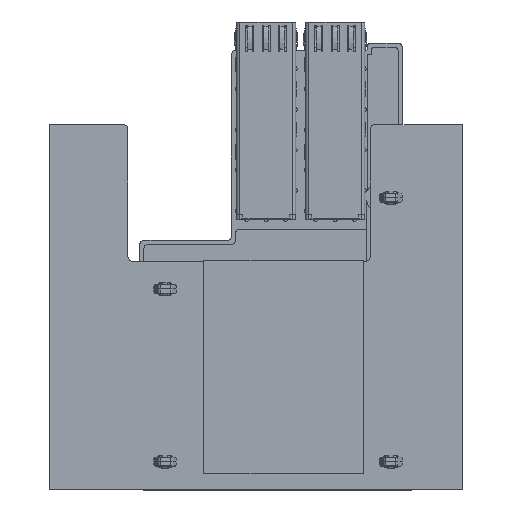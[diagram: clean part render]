
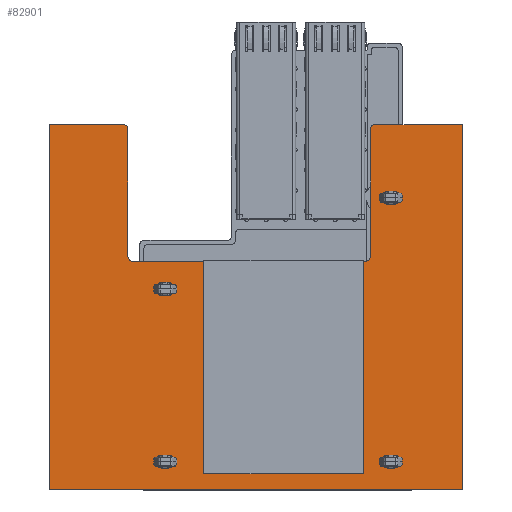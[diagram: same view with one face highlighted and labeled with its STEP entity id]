
A CAD part, front view. The second image highlights one B-rep face of the part: STEP entity #82901.
In plain terms, the highlighted planar face has unit normal (0, -1, 0).
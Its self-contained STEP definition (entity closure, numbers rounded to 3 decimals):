
#82106=DIRECTION('',(-1.,0.,0.));
#82107=VECTOR('',#82106,1.6);
#82108=CARTESIAN_POINT('',(100.2,-2.16,-465.9));
#82109=LINE('',#82108,#82107);
#82113=CARTESIAN_POINT('',(98.6,-2.16,-467.5));
#82114=DIRECTION('',(0.,-1.,0.));
#82115=DIRECTION('',(0.,0.,1.));
#82116=AXIS2_PLACEMENT_3D('',#82113,#82114,#82115);
#82121=DIRECTION('',(1.,0.,0.));
#82122=VECTOR('',#82121,1.6);
#82123=CARTESIAN_POINT('',(98.6,-2.16,-469.1));
#82124=LINE('',#82123,#82122);
#82128=CARTESIAN_POINT('',(100.2,-2.16,-467.5));
#82129=DIRECTION('',(0.,-1.,0.));
#82130=DIRECTION('',(0.,0.,-1.));
#82131=AXIS2_PLACEMENT_3D('',#82128,#82129,#82130);
#82136=DIRECTION('',(1.,0.,0.));
#82137=VECTOR('',#82136,1.6);
#82138=CARTESIAN_POINT('',(98.6,-2.16,-423.4));
#82139=LINE('',#82138,#82137);
#82143=CARTESIAN_POINT('',(98.6,-2.16,-425.));
#82144=DIRECTION('',(0.,1.,0.));
#82145=DIRECTION('',(0.,0.,-1.));
#82146=AXIS2_PLACEMENT_3D('',#82143,#82144,#82145);
#82151=DIRECTION('',(-1.,0.,0.));
#82152=VECTOR('',#82151,1.6);
#82153=CARTESIAN_POINT('',(100.2,-2.16,-426.6));
#82154=LINE('',#82153,#82152);
#82158=CARTESIAN_POINT('',(100.2,-2.16,-425.));
#82159=DIRECTION('',(0.,1.,0.));
#82160=DIRECTION('',(0.,0.,1.));
#82161=AXIS2_PLACEMENT_3D('',#82158,#82159,#82160);
#82166=CARTESIAN_POINT('',(44.6,-2.16,-425.));
#82167=DIRECTION('',(0.,1.,0.));
#82168=DIRECTION('',(0.,0.,1.));
#82169=AXIS2_PLACEMENT_3D('',#82166,#82167,#82168);
#82174=DIRECTION('',(1.,0.,0.));
#82175=VECTOR('',#82174,1.6);
#82176=CARTESIAN_POINT('',(43.,-2.16,-423.4));
#82177=LINE('',#82176,#82175);
#82181=CARTESIAN_POINT('',(43.,-2.16,-425.));
#82182=DIRECTION('',(0.,1.,0.));
#82183=DIRECTION('',(0.,0.,-1.));
#82184=AXIS2_PLACEMENT_3D('',#82181,#82182,#82183);
#82189=DIRECTION('',(-1.,0.,0.));
#82190=VECTOR('',#82189,1.6);
#82191=CARTESIAN_POINT('',(44.6,-2.16,-426.6));
#82192=LINE('',#82191,#82190);
#82196=CARTESIAN_POINT('',(44.6,-2.16,-490.));
#82197=DIRECTION('',(0.,1.,0.));
#82198=DIRECTION('',(0.,0.,1.));
#82199=AXIS2_PLACEMENT_3D('',#82196,#82197,#82198);
#82204=DIRECTION('',(1.,0.,0.));
#82205=VECTOR('',#82204,1.6);
#82206=CARTESIAN_POINT('',(43.,-2.16,-488.4));
#82207=LINE('',#82206,#82205);
#82211=CARTESIAN_POINT('',(43.,-2.16,-490.));
#82212=DIRECTION('',(0.,1.,0.));
#82213=DIRECTION('',(0.,0.,-1.));
#82214=AXIS2_PLACEMENT_3D('',#82211,#82212,#82213);
#82219=DIRECTION('',(-1.,0.,0.));
#82220=VECTOR('',#82219,1.6);
#82221=CARTESIAN_POINT('',(44.6,-2.16,-491.6));
#82222=LINE('',#82221,#82220);
#82226=CARTESIAN_POINT('',(47.77,-2.16,-507.));
#82227=DIRECTION('',(0.,-1.,0.));
#82228=DIRECTION('',(0.,0.,-1.));
#82229=AXIS2_PLACEMENT_3D('',#82226,#82227,#82228);
#82234=DIRECTION('',(1.,0.,0.));
#82235=VECTOR('',#82234,18.25);
#82236=CARTESIAN_POINT('',(109.62,-2.16,-508.));
#82237=LINE('',#82236,#82235);
#82241=CARTESIAN_POINT('',(109.62,-2.16,-507.));
#82242=DIRECTION('',(0.,-1.,0.));
#82243=DIRECTION('',(-1.,0.,0.));
#82244=AXIS2_PLACEMENT_3D('',#82241,#82242,#82243);
#82249=DIRECTION('',(0.,0.,1.));
#82250=VECTOR('',#82249,31.27);
#82251=CARTESIAN_POINT('',(108.62,-2.16,-507.));
#82252=LINE('',#82251,#82250);
#82532=DIRECTION('',(0.,0.,1.));
#82533=VECTOR('',#82532,31.27);
#82534=CARTESIAN_POINT('',(48.77,-2.16,-507.));
#82535=LINE('',#82534,#82533);
#82539=CARTESIAN_POINT('',(50.27,-2.16,-475.73));
#82540=DIRECTION('',(0.,1.,0.));
#82541=DIRECTION('',(-1.,0.,0.));
#82542=AXIS2_PLACEMENT_3D('',#82539,#82540,#82541);
#82576=DIRECTION('',(1.,0.,0.));
#82577=VECTOR('',#82576,56.85);
#82578=CARTESIAN_POINT('',(50.27,-2.16,-474.23));
#82579=LINE('',#82578,#82577);
#82583=CARTESIAN_POINT('',(107.12,-2.16,-475.73));
#82584=DIRECTION('',(0.,1.,0.));
#82585=DIRECTION('',(0.,0.,1.));
#82586=AXIS2_PLACEMENT_3D('',#82583,#82584,#82585);
#82648=DIRECTION('',(0.,0.,-1.));
#82649=VECTOR('',#82648,90.);
#82650=CARTESIAN_POINT('',(127.87,-2.16,-418.));
#82651=LINE('',#82650,#82649);
#82655=DIRECTION('',(1.,0.,0.));
#82656=VECTOR('',#82655,101.72);
#82657=CARTESIAN_POINT('',(26.15,-2.16,-418.));
#82658=LINE('',#82657,#82656);
#82676=DIRECTION('',(0.,0.,1.));
#82677=VECTOR('',#82676,90.);
#82678=CARTESIAN_POINT('',(26.15,-2.16,-508.));
#82679=LINE('',#82678,#82677);
#82697=DIRECTION('',(1.,0.,0.));
#82698=VECTOR('',#82697,21.62);
#82699=CARTESIAN_POINT('',(26.15,-2.16,-508.));
#82700=LINE('',#82699,#82698);
#82718=CARTESIAN_POINT('',(26.15,-2.16,-418.));
#82719=CARTESIAN_POINT('',(127.87,-2.16,-418.));
#82720=VERTEX_POINT('',#82718);
#82721=VERTEX_POINT('',#82719);
#82722=CARTESIAN_POINT('',(26.15,-2.16,-508.));
#82723=VERTEX_POINT('',#82722);
#82724=CARTESIAN_POINT('',(43.,-2.16,-423.4));
#82725=CARTESIAN_POINT('',(44.6,-2.16,-423.4));
#82726=VERTEX_POINT('',#82724);
#82727=VERTEX_POINT('',#82725);
#82728=CARTESIAN_POINT('',(43.,-2.16,-488.4));
#82729=CARTESIAN_POINT('',(44.6,-2.16,-488.4));
#82730=VERTEX_POINT('',#82728);
#82731=VERTEX_POINT('',#82729);
#82738=CARTESIAN_POINT('',(43.,-2.16,-426.6));
#82740=VERTEX_POINT('',#82738);
#82742=CARTESIAN_POINT('',(44.6,-2.16,-426.6));
#82743=VERTEX_POINT('',#82742);
#82748=CARTESIAN_POINT('',(43.,-2.16,-491.6));
#82750=VERTEX_POINT('',#82748);
#82754=CARTESIAN_POINT('',(44.6,-2.16,-491.6));
#82755=VERTEX_POINT('',#82754);
#82756=CARTESIAN_POINT('',(127.87,-2.16,-508.));
#82757=VERTEX_POINT('',#82756);
#82766=CARTESIAN_POINT('',(47.77,-2.16,-508.));
#82767=VERTEX_POINT('',#82766);
#82772=CARTESIAN_POINT('',(48.77,-2.16,-507.));
#82773=VERTEX_POINT('',#82772);
#82778=CARTESIAN_POINT('',(108.62,-2.16,-507.));
#82779=VERTEX_POINT('',#82778);
#82780=CARTESIAN_POINT('',(109.62,-2.16,-508.));
#82781=VERTEX_POINT('',#82780);
#82782=CARTESIAN_POINT('',(107.12,-2.16,-474.23));
#82784=VERTEX_POINT('',#82782);
#82786=CARTESIAN_POINT('',(108.62,-2.16,-475.73));
#82788=VERTEX_POINT('',#82786);
#82790=CARTESIAN_POINT('',(48.77,-2.16,-475.73));
#82792=VERTEX_POINT('',#82790);
#82794=CARTESIAN_POINT('',(50.27,-2.16,-474.23));
#82796=VERTEX_POINT('',#82794);
#82806=CARTESIAN_POINT('',(98.6,-2.16,-423.4));
#82807=CARTESIAN_POINT('',(100.2,-2.16,-423.4));
#82808=VERTEX_POINT('',#82806);
#82809=VERTEX_POINT('',#82807);
#82810=CARTESIAN_POINT('',(98.6,-2.16,-426.6));
#82811=VERTEX_POINT('',#82810);
#82812=CARTESIAN_POINT('',(100.2,-2.16,-426.6));
#82813=VERTEX_POINT('',#82812);
#82822=CARTESIAN_POINT('',(100.2,-2.16,-465.9));
#82823=CARTESIAN_POINT('',(98.6,-2.16,-465.9));
#82824=VERTEX_POINT('',#82822);
#82825=VERTEX_POINT('',#82823);
#82826=CARTESIAN_POINT('',(98.6,-2.16,-469.1));
#82827=VERTEX_POINT('',#82826);
#82828=CARTESIAN_POINT('',(100.2,-2.16,-469.1));
#82829=VERTEX_POINT('',#82828);
#82830=CARTESIAN_POINT('',(0.,-2.16,0.));
#82831=DIRECTION('',(0.,1.,0.));
#82832=DIRECTION('',(0.,0.,1.));
#82833=AXIS2_PLACEMENT_3D('',#82830,#82831,#82832);
#82834=PLANE('',#82833);
#82836=ORIENTED_EDGE('',*,*,#82835,.F.);
#82838=ORIENTED_EDGE('',*,*,#82837,.F.);
#82840=ORIENTED_EDGE('',*,*,#82839,.F.);
#82842=ORIENTED_EDGE('',*,*,#82841,.F.);
#82844=ORIENTED_EDGE('',*,*,#82843,.F.);
#82846=ORIENTED_EDGE('',*,*,#82845,.T.);
#82848=ORIENTED_EDGE('',*,*,#82847,.T.);
#82850=ORIENTED_EDGE('',*,*,#82849,.T.);
#82852=ORIENTED_EDGE('',*,*,#82851,.F.);
#82854=ORIENTED_EDGE('',*,*,#82853,.F.);
#82856=ORIENTED_EDGE('',*,*,#82855,.T.);
#82858=ORIENTED_EDGE('',*,*,#82857,.F.);
#82859=EDGE_LOOP('',(#82836,#82838,#82840,#82842,#82844,#82846,#82848,#82850,
#82852,#82854,#82856,#82858));
#82860=FACE_OUTER_BOUND('',#82859,.F.);
#82862=ORIENTED_EDGE('',*,*,#82861,.F.);
#82864=ORIENTED_EDGE('',*,*,#82863,.F.);
#82866=ORIENTED_EDGE('',*,*,#82865,.F.);
#82868=ORIENTED_EDGE('',*,*,#82867,.F.);
#82869=EDGE_LOOP('',(#82862,#82864,#82866,#82868));
#82870=FACE_BOUND('',#82869,.F.);
#82872=ORIENTED_EDGE('',*,*,#82871,.F.);
#82874=ORIENTED_EDGE('',*,*,#82873,.F.);
#82876=ORIENTED_EDGE('',*,*,#82875,.F.);
#82878=ORIENTED_EDGE('',*,*,#82877,.F.);
#82879=EDGE_LOOP('',(#82872,#82874,#82876,#82878));
#82880=FACE_BOUND('',#82879,.F.);
#82882=ORIENTED_EDGE('',*,*,#82881,.F.);
#82884=ORIENTED_EDGE('',*,*,#82883,.F.);
#82886=ORIENTED_EDGE('',*,*,#82885,.F.);
#82888=ORIENTED_EDGE('',*,*,#82887,.F.);
#82889=EDGE_LOOP('',(#82882,#82884,#82886,#82888));
#82890=FACE_BOUND('',#82889,.F.);
#82892=ORIENTED_EDGE('',*,*,#82891,.T.);
#82894=ORIENTED_EDGE('',*,*,#82893,.T.);
#82896=ORIENTED_EDGE('',*,*,#82895,.T.);
#82898=ORIENTED_EDGE('',*,*,#82897,.T.);
#82899=EDGE_LOOP('',(#82892,#82894,#82896,#82898));
#82900=FACE_BOUND('',#82899,.F.);
#82117=CIRCLE('',#82116,1.6);
#82132=CIRCLE('',#82131,1.6);
#82147=CIRCLE('',#82146,1.6);
#82162=CIRCLE('',#82161,1.6);
#82170=CIRCLE('',#82169,1.6);
#82185=CIRCLE('',#82184,1.6);
#82200=CIRCLE('',#82199,1.6);
#82215=CIRCLE('',#82214,1.6);
#82230=CIRCLE('',#82229,1.);
#82245=CIRCLE('',#82244,1.);
#82543=CIRCLE('',#82542,1.5);
#82587=CIRCLE('',#82586,1.5);
#82835=EDGE_CURVE('',#82796,#82784,#82579,.T.);
#82837=EDGE_CURVE('',#82792,#82796,#82543,.T.);
#82839=EDGE_CURVE('',#82773,#82792,#82535,.T.);
#82841=EDGE_CURVE('',#82767,#82773,#82230,.T.);
#82843=EDGE_CURVE('',#82723,#82767,#82700,.T.);
#82845=EDGE_CURVE('',#82723,#82720,#82679,.T.);
#82847=EDGE_CURVE('',#82720,#82721,#82658,.T.);
#82849=EDGE_CURVE('',#82721,#82757,#82651,.T.);
#82851=EDGE_CURVE('',#82781,#82757,#82237,.T.);
#82853=EDGE_CURVE('',#82779,#82781,#82245,.T.);
#82855=EDGE_CURVE('',#82779,#82788,#82252,.T.);
#82857=EDGE_CURVE('',#82784,#82788,#82587,.T.);
#82861=EDGE_CURVE('',#82808,#82809,#82139,.T.);
#82863=EDGE_CURVE('',#82811,#82808,#82147,.T.);
#82865=EDGE_CURVE('',#82813,#82811,#82154,.T.);
#82867=EDGE_CURVE('',#82809,#82813,#82162,.T.);
#82871=EDGE_CURVE('',#82727,#82743,#82170,.T.);
#82873=EDGE_CURVE('',#82726,#82727,#82177,.T.);
#82875=EDGE_CURVE('',#82740,#82726,#82185,.T.);
#82877=EDGE_CURVE('',#82743,#82740,#82192,.T.);
#82881=EDGE_CURVE('',#82731,#82755,#82200,.T.);
#82883=EDGE_CURVE('',#82730,#82731,#82207,.T.);
#82885=EDGE_CURVE('',#82750,#82730,#82215,.T.);
#82887=EDGE_CURVE('',#82755,#82750,#82222,.T.);
#82891=EDGE_CURVE('',#82824,#82825,#82109,.T.);
#82893=EDGE_CURVE('',#82825,#82827,#82117,.T.);
#82895=EDGE_CURVE('',#82827,#82829,#82124,.T.);
#82897=EDGE_CURVE('',#82829,#82824,#82132,.T.);
#82901=ADVANCED_FACE('',(#82860,#82870,#82880,#82890,#82900),#82834,.F.);
